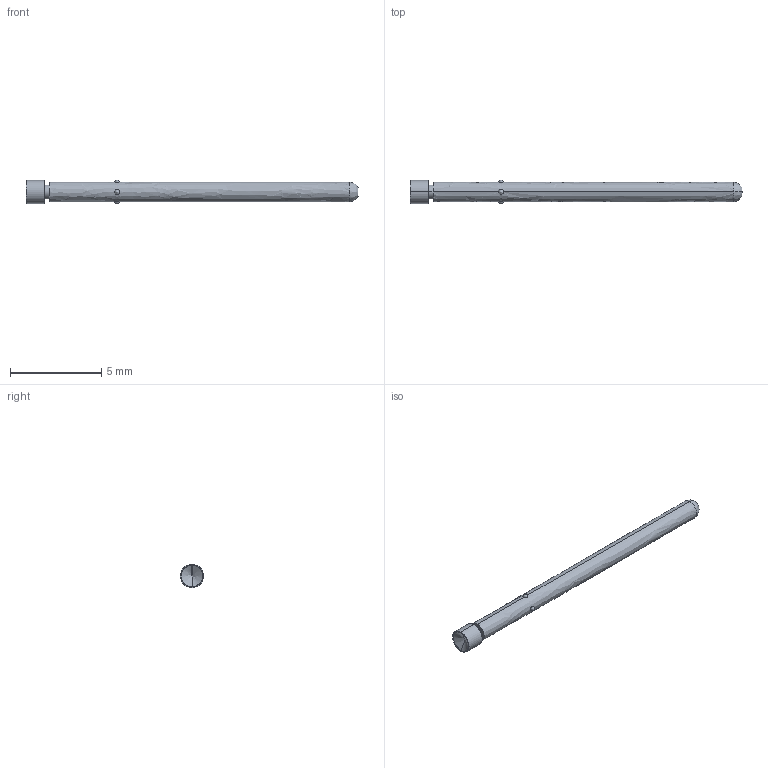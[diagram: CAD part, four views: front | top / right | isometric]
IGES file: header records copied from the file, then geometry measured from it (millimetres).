
Start section: SolidWorks IGES file using analytic representation for surfaces
Global section: file name: O:\PYLON\IGES FILES\P2663\P2663G-1V1S FULL.IGS; native system: SolidWorks 2015; preprocessor: SolidWorks 2015; author: kgolden; date: 171019.103742; units: inch
Bounding box: 18.24 x 1.32 x 1.32 mm (x, y, z)
Surface area: 69.2 mm2 (no closed solid volume)
Topology: 0 solids, 0 shells, 24 faces, 300 edges, 282 vertices
Faces by surface type: revolution 18, bspline 6
